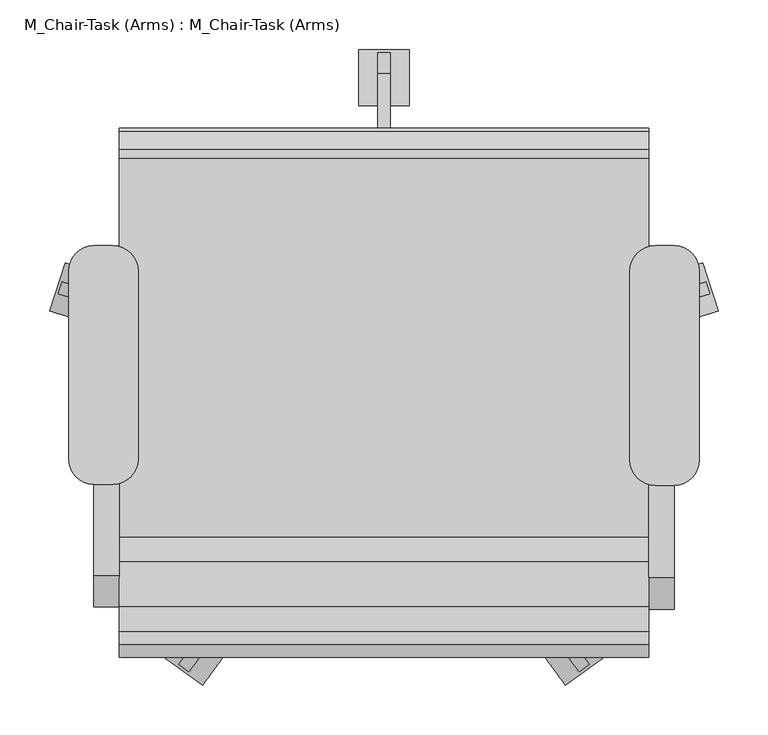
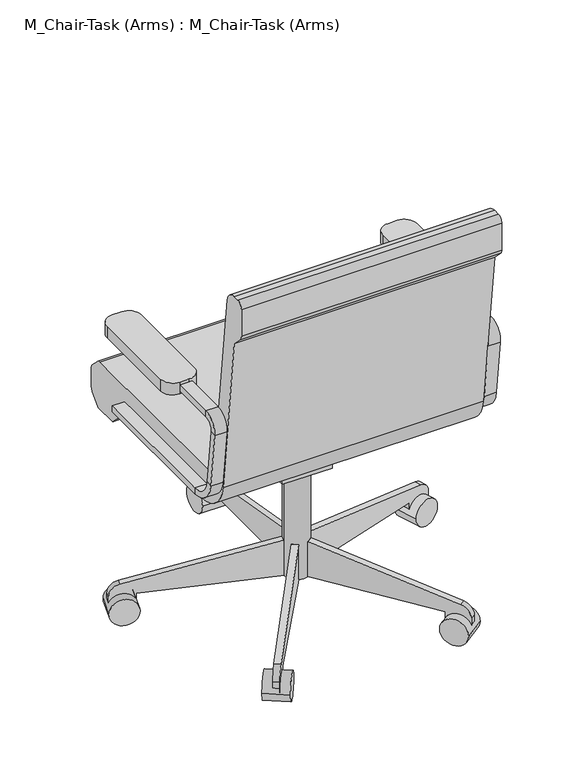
"""IFC4 building model written with IfcOpenShell, lengths in millimetres: furniture geometry, M_Chair-Task (Arms) : M_Chair-Task (Arms)."""

from ifc_helpers import new_model, si_unit, point, frame, frame_2d, origin, place, context, project, spatial, polyline, circle_curve, trimmed, segment, composite_curve, outline, extrude, source, transform, mapped, element, save
from ifc_brep_helpers import plane_surface, cylinder_surface, revolved_surface, advanced_brep


def m_chair_task_arms_m_chair_task_arms_bb362225(model_context):
    return source(origin(), model_context, "Body", "SolidModel", [
        extrude(outline(composite_curve([segment(polyline([(-126.2050455, 457.2), (255.0102301, 457.2)]), True, "CONTINUOUS"), segment(trimmed(circle_curve(frame_2d((255.0102301, 444.5)), 12.7), [point((255.0102301, 457.2))], [point((263.9604301, 453.510212))], False, "CARTESIAN"), True, "CONTINUOUS"), segment(polyline([(263.9604301, 453.510212), (281.8961016, 435.6939999)]), True, "CONTINUOUS"), segment(trimmed(circle_curve(frame_2d((272.9459016, 426.6837879)), 12.7), [point((281.8961016, 435.6939999))], [point((285.6459016, 426.6837879))], False, "CARTESIAN"), True, "CONTINUOUS"), segment(polyline([(285.6459016, 426.6837879), (285.6459016, 391.6405184)]), True, "CONTINUOUS"), segment(trimmed(circle_curve(frame_2d((260.2459016, 391.6405184)), 25.4), [point((285.6459016, 391.6405184))], [point((278.2663256, 373.7401184))], False, "CARTESIAN"), True, "CONTINUOUS"), segment(polyline([(278.2663256, 373.7401184), (260.2470284, 355.6), (209.4470284, 355.6), (181.0744602, 383.7835944), (-107.1089978, 383.7835944)]), True, "CONTINUOUS"), segment(trimmed(circle_curve(frame_2d((-107.1089978, 459.9835944)), 76.2), [point((-107.1089978, 383.7835944))], [point((-182.7870738, 451.0802913))], False, "CARTESIAN"), True, "CONTINUOUS"), segment(polyline([(-182.7870738, 451.0802913), (-222.3540984, 787.4), (-244.0343545, 809.0802561)]), True, "CONTINUOUS"), segment(trimmed(circle_curve(frame_2d((-235.0540984, 818.0605122)), 12.7), [point((-244.0343545, 809.0802561))], [point((-247.7540984, 818.0605122))], False, "CARTESIAN"), True, "CONTINUOUS"), segment(polyline([(-247.7540984, 818.0605122), (-247.7540984, 876.3)]), True, "CONTINUOUS"), segment(trimmed(circle_curve(frame_2d((-235.0540984, 876.3)), 12.7), [point((-247.7540984, 876.3))], [point((-235.0540984, 889.0))], False, "CARTESIAN"), True, "CONTINUOUS"), segment(polyline([(-235.0540984, 889.0), (-222.1789239, 889.0)]), True, "CONTINUOUS"), segment(trimmed(circle_curve(frame_2d((-222.1789239, 863.6)), 25.4), [point((-222.1789239, 889.0))], [point((-196.9528985, 866.5677677))], False, "CARTESIAN"), True, "CONTINUOUS"), segment(polyline([(-196.9528985, 866.5677677), (-151.4310708, 479.6322323)]), True, "CONTINUOUS"), segment(trimmed(circle_curve(frame_2d((-126.2050455, 482.6)), 25.4), [point((-151.4310708, 479.6322323))], [point((-126.2050455, 457.2))], True, "CARTESIAN"), True, "CONTINUOUS")], self_intersect=False)), frame((-125.7091803, 0.0, 0.0), z_axis=(1.0, 0.0, 0.0), x_axis=(0.0, 1.0, 0.0)), (0.0, 0.0, 1.0), 533.4),
        extrude(outline(polyline([(69.7459016, 383.7835944), (69.7459016, 371.0835944), (18.9459016, 283.0954134), (-19.1540984, 283.0954134), (-19.1540984, 383.7835944), (69.7459016, 383.7835944)])), frame((90.1908197, 0.0, 0.0), z_axis=(1.0, 0.0, 0.0), x_axis=(0.0, 1.0, 0.0)), (0.0, 0.0, 1.0), 101.6),
        extrude(outline(composite_curve([segment(polyline([(311.0459016, 53.5835944), (18.9459016, 53.5835944), (18.9459016, 129.7835944), (44.3459016, 129.7835944), (340.8565654, 77.5007643)]), True, "CONTINUOUS"), segment(trimmed(circle_curve(frame_2d((336.4459016, 52.4866474)), 25.4), [point((340.8565654, 77.5007643))], [point((361.8459016, 52.4866474))], False, "CARTESIAN"), True, "CONTINUOUS"), segment(polyline([(361.8459016, 52.4866474), (361.8459016, 28.1835944), (311.0459016, 28.1835944), (311.0459016, 53.5835944)]), True, "CONTINUOUS")], self_intersect=False)), frame((134.6408197, 0.0, 0.0), z_axis=(1.0, 0.0, 0.0), x_axis=(0.0, 1.0, 0.0)), (0.0, 0.0, 1.0), 12.7),
        extrude(outline(composite_curve([segment(trimmed(circle_curve(frame_2d((336.4459016, 28.1835944)), 28.2002727), [point((308.2456289, 28.1835944))], [point((364.6461744, 28.1835944))], False, "CARTESIAN"), True, "CONTINUOUS"), segment(trimmed(circle_curve(frame_2d((336.4459016, 28.1835944)), 28.2002727), [point((364.6461744, 28.1835944))], [point((308.2456289, 28.1835944))], False, "CARTESIAN"), True, "CONTINUOUS")], self_intersect=False)), frame((115.5908197, 0.0, 0.0), z_axis=(1.0, 0.0, 0.0), x_axis=(0.0, 1.0, 0.0)), (0.0, 0.0, 1.0), 50.8),
        extrude(outline(composite_curve([segment(polyline([(25.4, 0.0), (25.4, 292.1000001), (101.6, 292.1000001), (101.6, 266.7), (49.3171699, -29.8106636)]), True, "CONTINUOUS"), segment(trimmed(circle_curve(frame_2d((24.303053, -25.4)), 25.4), [point((49.3171699, -29.8106636))], [point((24.303053, -50.8))], False, "CARTESIAN"), True, "CONTINUOUS"), segment(polyline([(24.303053, -50.8), (0.0, -50.8), (0.0, 0.0), (25.4, 0.0)]), True, "CONTINUOUS")], self_intersect=False)), frame((-138.7750467, 103.1705568, 28.1835944), z_axis=(0.3090169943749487, 0.9510565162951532, 0.0), x_axis=(0.0, 0.0, 1.0)), (0.0, 0.0, 1.0), 12.7),
        extrude(outline(composite_curve([segment(trimmed(circle_curve(frame_2d((0.0, -28.2002727)), 28.2002727), [point((0.0, -56.4005454))], [point((0.0, 0.0))], False, "CARTESIAN"), True, "CONTINUOUS"), segment(trimmed(circle_curve(frame_2d((0.0, -28.2002727)), 28.2002727), [point((0.0, 0.0))], [point((0.0, -56.4005454))], False, "CARTESIAN"), True, "CONTINUOUS")], self_intersect=False)), frame((-195.638709, 101.6163254, 28.1835944), z_axis=(0.3090169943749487, 0.9510565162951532, 0.0), x_axis=(0.0, 0.0, -1.0)), (0.0, 0.0, 1.0), 50.8),
        extrude(outline(composite_curve([segment(polyline([(25.4, 0.0), (25.4, 292.1), (101.6, 292.1), (101.6, 266.7), (49.3171699, -29.8106637)]), True, "CONTINUOUS"), segment(trimmed(circle_curve(frame_2d((24.303053, -25.3999999)), 25.4), [point((49.3171699, -29.8106637))], [point((24.303053, -50.8))], False, "CARTESIAN"), True, "CONTINUOUS"), segment(polyline([(24.303053, -50.8), (0.0, -50.8), (0.0, 0.0), (25.4, 0.0)]), True, "CONTINUOUS")], self_intersect=False)), frame((-25.5639946, -221.1003988, 28.1835944), z_axis=(-0.8090169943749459, 0.5877852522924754, 0.0), x_axis=(0.0, 0.0, 1.0)), (0.0, 0.0, 1.0), 12.7),
        extrude(outline(composite_curve([segment(trimmed(circle_curve(frame_2d((0.0, -28.2002727)), 28.2002727), [point((0.0, -56.4005455))], [point((0.0, 0.0))], False, "CARTESIAN"), True, "CONTINUOUS"), segment(trimmed(circle_curve(frame_2d((0.0, -28.2002727)), 28.2002727), [point((0.0, 0.0))], [point((0.0, -56.4005455))], False, "CARTESIAN"), True, "CONTINUOUS")], self_intersect=False)), frame((-41.6576707, -275.6612394, 28.1835944), z_axis=(-0.8090169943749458, 0.5877852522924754, 0.0), x_axis=(0.0, 0.0, -1.0)), (0.0, 0.0, 1.0), 50.8),
        extrude(outline(composite_curve([segment(polyline([(-25.4, 0.0), (0.0, 0.0), (0.0, -50.8), (-24.303053, -50.8)]), True, "CONTINUOUS"), segment(trimmed(circle_curve(frame_2d((-24.303053, -25.3999999)), 25.4), [point((-24.303053, -50.8))], [point((-49.3171699, -29.8106636))], False, "CARTESIAN"), True, "CONTINUOUS"), segment(polyline([(-49.3171699, -29.8106636), (-101.6, 266.7), (-101.6, 292.1), (-25.4, 292.1), (-25.4, 0.0)]), True, "CONTINUOUS")], self_intersect=False)), frame((307.545634, -221.1003988, 28.1835944), z_axis=(0.8090169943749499, 0.5877852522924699, 0.0), x_axis=(0.0, 0.0, -1.0)), (0.0, 0.0, 1.0), 12.7),
        extrude(outline(composite_curve([segment(trimmed(circle_curve(frame_2d((0.0, -28.2002727)), 28.2002727), [point((0.0, -56.4005455))], [point((0.0, 0.0))], False, "CARTESIAN"), True, "CONTINUOUS"), segment(trimmed(circle_curve(frame_2d((0.0, -28.2002727)), 28.2002727), [point((0.0, 0.0))], [point((0.0, -56.4005455))], False, "CARTESIAN"), True, "CONTINUOUS")], self_intersect=False)), frame((323.63931, -275.6612394, 28.1835944), z_axis=(0.8090169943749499, 0.5877852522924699, 0.0), x_axis=(0.0, 0.0, 1.0)), (0.0, 0.0, 1.0), 50.8),
        extrude(outline(composite_curve([segment(polyline([(-25.4, 0.0), (0.0, 0.0), (0.0, -50.8), (-24.303053, -50.8)]), True, "CONTINUOUS"), segment(trimmed(circle_curve(frame_2d((-24.303053, -25.4)), 25.4), [point((-24.303053, -50.8))], [point((-49.3171699, -29.8106637))], False, "CARTESIAN"), True, "CONTINUOUS"), segment(polyline([(-49.3171699, -29.8106637), (-101.6, 266.7), (-101.6, 292.1), (-25.4, 292.1), (-25.4, 0.0)]), True, "CONTINUOUS")], self_intersect=False)), frame((420.756686, 103.1705568, 28.1835944), z_axis=(-0.3090169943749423, 0.9510565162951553, 0.0), x_axis=(0.0, 0.0, -1.0)), (0.0, 0.0, 1.0), 12.7),
        extrude(outline(composite_curve([segment(trimmed(circle_curve(frame_2d((0.0, -28.2002727)), 28.2002727), [point((0.0, -56.4005455))], [point((0.0, 0.0))], False, "CARTESIAN"), True, "CONTINUOUS"), segment(trimmed(circle_curve(frame_2d((0.0, -28.2002727)), 28.2002727), [point((0.0, 0.0))], [point((0.0, -56.4005455))], False, "CARTESIAN"), True, "CONTINUOUS")], self_intersect=False)), frame((477.6203484, 101.6163254, 28.1835944), z_axis=(-0.3090169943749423, 0.9510565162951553, 0.0), x_axis=(0.0, 0.0, 1.0)), (0.0, 0.0, 1.0), 50.8),
        extrude(outline(composite_curve([segment(trimmed(circle_curve(frame_2d((140.9908197, 18.9459016)), 25.4), [point((115.5908197, 18.9459016))], [point((166.3908197, 18.9459016))], False, "CARTESIAN"), True, "CONTINUOUS"), segment(trimmed(circle_curve(frame_2d((140.9908197, 18.9459016)), 25.4), [point((166.3908197, 18.9459016))], [point((115.5908197, 18.9459016))], False, "CARTESIAN"), True, "CONTINUOUS")], self_intersect=False)), frame((0.0, 0.0, 53.5835944), z_axis=(0.0, 0.0, 1.0), x_axis=(1.0, 0.0, 0.0)), (0.0, 0.0, 1.0), 330.5914056),
        advanced_brep(
        [(433.0908197, 167.0319091, 425.45), (433.0908197, 167.0319091, 412.75), (407.6908197, 167.0319091, 412.75), (407.6908197, 167.0319091, 425.45), (433.0908197, -128.329278, 425.45), (433.0908197, -128.329278, 412.75), (407.6908197, -128.329278, 412.75), (407.6908197, -128.329278, 425.45), (433.0908197, -185.0878351, 463.2225227), (433.0908197, -172.4748224, 464.7064065), (407.6908197, -185.0878351, 463.2225227), (407.6908197, -172.4748224, 464.7064065), (433.0908197, -186.2710303, 581.9741742), (433.0908197, -198.884043, 580.4902904), (407.6908197, -198.884043, 580.4902904), (407.6908197, -186.2710303, 581.9741742), (433.0908197, -167.3515113, 615.95), (433.0908197, -167.3515113, 603.25), (407.6908197, -167.3515113, 615.95), (407.6908197, -167.3515113, 603.25), (433.0908197, 18.9459016, 603.25), (407.6908197, 18.9459016, 603.25), (407.6908197, 18.9459016, 615.95), (433.0908197, 18.9459016, 615.95)],
        [
            (0, 1),
            (1, 2),
            (2, 3),
            (3, 0),
            (0, 4),
            (4, 5),
            (5, 1),
            (5, 6),
            (6, 2),
            (6, 7),
            (7, 3),
            (7, 4),
            (8, 5, circle_curve(frame((433.0908197, -128.329278, 469.9), z_axis=(1.0, 0.0, 0.0), x_axis=(0.0, 0.0, -1.0)), 57.15)),
            (4, 9, circle_curve(frame((433.0908197, -128.329278, 469.9), z_axis=(-1.0, 0.0, 0.0), x_axis=(0.0, 0.0, -1.0)), 44.45)),
            (9, 8),
            (10, 6, circle_curve(frame((407.6908197, -128.329278, 469.9), z_axis=(1.0, 0.0, 0.0), x_axis=(0.0, 0.0, -1.0)), 57.15)),
            (8, 10),
            (11, 7, circle_curve(frame((407.6908197, -128.329278, 469.9), z_axis=(1.0, 0.0, 0.0), x_axis=(0.0, 0.0, -1.0)), 44.45)),
            (10, 11),
            (11, 9),
            (9, 12),
            (12, 13),
            (13, 8),
            (13, 14),
            (14, 10),
            (14, 15),
            (15, 11),
            (15, 12),
            (16, 13, circle_curve(frame((433.0908197, -167.3515113, 584.2), z_axis=(1.0, 0.0, 0.0), x_axis=(0.0, -0.9931506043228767, -0.1168412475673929)), 31.75)),
            (12, 17, circle_curve(frame((433.0908197, -167.3515113, 584.2), z_axis=(-1.0, 0.0, 0.0), x_axis=(0.0, -0.9931506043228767, -0.1168412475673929)), 19.05)),
            (17, 16),
            (18, 14, circle_curve(frame((407.6908197, -167.3515113, 584.2), z_axis=(1.0, 0.0, 0.0), x_axis=(0.0, -0.9931506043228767, -0.1168412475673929)), 31.75)),
            (16, 18),
            (19, 15, circle_curve(frame((407.6908197, -167.3515113, 584.2), z_axis=(1.0, 0.0, 0.0), x_axis=(0.0, -0.9931506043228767, -0.1168412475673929)), 19.05)),
            (18, 19),
            (19, 17),
            (20, 21),
            (21, 22),
            (22, 23),
            (23, 20),
            (17, 20),
            (23, 16),
            (22, 18),
            (21, 19),
        ],
        [
            plane_surface(frame((406.191788, 167.0319091, 419.1), z_axis=(0.0, 1.0, 0.0), x_axis=(0.0, 0.0, -1.0))),
            plane_surface(frame((433.0908197, 167.0319091, 425.45), z_axis=(1.0, 0.0, 0.0), x_axis=(0.0, -1.0, 0.0))),
            plane_surface(frame((433.0908197, 167.0319091, 412.75), z_axis=(0.0, 0.0, -1.0), x_axis=(0.0, -1.0, 0.0))),
            plane_surface(frame((407.6908197, 167.0319091, 412.75), z_axis=(-1.0, 0.0, 0.0), x_axis=(0.0, -1.0, 0.0))),
            plane_surface(frame((407.6908197, 167.0319091, 425.45), z_axis=(0.0, 0.0, 1.0), x_axis=(0.0, -1.0, 0.0))),
            plane_surface(frame((433.0908197, -128.329278, 469.9), z_axis=(1.0, 0.0, 0.0), x_axis=(0.0, 0.0, -1.0))),
            cylinder_surface(frame((420.3908197, -128.329278, 469.9), z_axis=(-1.0, 0.0, 0.0), x_axis=(0.0, 0.0, -1.0)), 57.15),
            plane_surface(frame((407.6908197, -128.329278, 469.9), z_axis=(-1.0, 0.0, 0.0), x_axis=(0.0, 0.0, -1.0))),
            revolved_surface(polyline([(407.6908197, -128.329278, 425.45), (433.0908197, -128.329278, 425.45)]), (420.3908197, -128.329278, 469.9), (-1.0, 0.0, 0.0)),
            plane_surface(frame((433.0908197, -172.4748224, 464.7064065), z_axis=(1.0, 0.0, 0.0), x_axis=(0.0, -0.11684124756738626, 0.9931506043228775))),
            plane_surface(frame((433.0908197, -185.0878351, 463.2225227), z_axis=(0.0, -0.9931506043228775, -0.11684124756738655), x_axis=(0.0, -0.11684124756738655, 0.9931506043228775))),
            plane_surface(frame((407.6908197, -185.0878351, 463.2225227), z_axis=(-1.0, 0.0, 0.0), x_axis=(0.0, -0.11684124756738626, 0.9931506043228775))),
            plane_surface(frame((407.6908197, -172.4748224, 464.7064065), z_axis=(0.0, 0.9931506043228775, 0.11684124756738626), x_axis=(0.0, -0.11684124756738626, 0.9931506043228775))),
            plane_surface(frame((433.0908197, -167.3515113, 584.2), z_axis=(1.0, 0.0, 0.0), x_axis=(0.0, -0.9931506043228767, -0.1168412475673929))),
            cylinder_surface(frame((420.3908197, -167.3515113, 584.2), z_axis=(-1.0, 0.0, 0.0), x_axis=(0.0, -0.9931506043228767, -0.1168412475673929)), 31.75),
            plane_surface(frame((407.6908197, -167.3515113, 584.2), z_axis=(-1.0, 0.0, 0.0), x_axis=(0.0, -0.9931506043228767, -0.1168412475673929))),
            revolved_surface(polyline([(407.6908197, -186.2710303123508, 581.9741742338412), (433.0908197, -186.2710303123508, 581.9741742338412)]), (420.3908197, -167.3515113, 584.2), (-1.0, 0.0, 0.0)),
            plane_surface(frame((406.191788, 18.9459016, 609.6), z_axis=(0.0, 1.0, 0.0), x_axis=(0.0, 0.0, 1.0))),
            plane_surface(frame((433.0908197, -167.3515113, 603.25), z_axis=(1.0, 0.0, 0.0), x_axis=(0.0, 1.0, 0.0))),
            plane_surface(frame((433.0908197, -167.3515113, 615.95), z_axis=(0.0, 0.0, 1.0), x_axis=(0.0, 1.0, 0.0))),
            plane_surface(frame((407.6908197, -167.3515113, 615.95), z_axis=(-1.0, 0.0, 0.0), x_axis=(0.0, 1.0, 0.0))),
            plane_surface(frame((407.6908197, -167.3515113, 603.25), z_axis=(0.0, 0.0, -1.0), x_axis=(0.0, 1.0, 0.0))),
        ],
        [
            (0, [[1, 2, 3, 4]]),
            (1, [[-1, 5, 6, 7]]),
            (2, [[-2, -7, 8, 9]]),
            (3, [[-3, -9, 10, 11]]),
            (4, [[-4, -11, 12, -5]]),
            (5, [[13, -6, 14, 15]]),
            (6, [[16, -8, -13, 17]]),
            (7, [[18, -10, -16, 19]]),
            (8, [[-14, -12, -18, 20]]),
            (9, [[-15, 21, 22, 23]]),
            (10, [[-17, -23, 24, 25]]),
            (11, [[-19, -25, 26, 27]]),
            (12, [[-20, -27, 28, -21]]),
            (13, [[29, -22, 30, 31]]),
            (14, [[32, -24, -29, 33]]),
            (15, [[34, -26, -32, 35]]),
            (16, [[-30, -28, -34, 36]]),
            (17, [[37, 38, 39, 40]]),
            (18, [[-31, 41, -40, 42]]),
            (19, [[-33, -42, -39, 43]]),
            (20, [[-35, -43, -38, 44]]),
            (21, [[-36, -44, -37, -41]]),
        ],
    ),
        advanced_brep(
        [(-151.1091803, 167.0319091, 412.75), (-151.1091803, 167.0319091, 425.45), (-125.7091803, 167.0319091, 425.45), (-125.7091803, 167.0319091, 412.75), (-151.1091803, -126.2388651, 412.75), (-151.1091803, -126.2388651, 425.45), (-125.7091803, -126.2388651, 425.45), (-125.7091803, -126.2388651, 412.75), (-151.1091803, -170.3844094, 464.7064065), (-151.1091803, -182.9974221, 463.2225227), (-125.7091803, -170.3844094, 464.7064065), (-125.7091803, -182.9974221, 463.2225227), (-151.1091803, -196.7936301, 580.4902904), (-151.1091803, -184.1806174, 581.9741742), (-125.7091803, -184.1806174, 581.9741742), (-125.7091803, -196.7936301, 580.4902904), (-151.1091803, -165.2610984, 603.25), (-151.1091803, -165.2610984, 615.95), (-125.7091803, -165.2610984, 603.25), (-125.7091803, -165.2610984, 615.95), (-151.1091803, 18.9459016, 615.95), (-125.7091803, 18.9459016, 615.95), (-125.7091803, 18.9459016, 603.25), (-151.1091803, 18.9459016, 603.25)],
        [
            (0, 1),
            (1, 2),
            (2, 3),
            (3, 0),
            (0, 4),
            (4, 5),
            (5, 1),
            (5, 6),
            (6, 2),
            (6, 7),
            (7, 3),
            (7, 4),
            (8, 5, circle_curve(frame((-151.1091803, -126.2388651, 469.9), z_axis=(1.0, 0.0, 0.0), x_axis=(0.0, 0.0, -1.0)), 44.45)),
            (4, 9, circle_curve(frame((-151.1091803, -126.2388651, 469.9), z_axis=(-1.0, 0.0, 0.0), x_axis=(0.0, 0.0, -1.0)), 57.15)),
            (9, 8),
            (10, 6, circle_curve(frame((-125.7091803, -126.2388651, 469.9), z_axis=(1.0, 0.0, 0.0), x_axis=(0.0, 0.0, -1.0)), 44.45)),
            (8, 10),
            (11, 7, circle_curve(frame((-125.7091803, -126.2388651, 469.9), z_axis=(1.0, 0.0, 0.0), x_axis=(0.0, 0.0, -1.0)), 57.15)),
            (10, 11),
            (11, 9),
            (9, 12),
            (12, 13),
            (13, 8),
            (13, 14),
            (14, 10),
            (14, 15),
            (15, 11),
            (15, 12),
            (16, 13, circle_curve(frame((-151.1091803, -165.2610984, 584.2), z_axis=(1.0, 0.0, 0.0), x_axis=(0.0, -0.9931506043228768, -0.11684124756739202)), 19.05)),
            (12, 17, circle_curve(frame((-151.1091803, -165.2610984, 584.2), z_axis=(-1.0, 0.0, 0.0), x_axis=(0.0, -0.9931506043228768, -0.11684124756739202)), 31.75)),
            (17, 16),
            (18, 14, circle_curve(frame((-125.7091803, -165.2610984, 584.2), z_axis=(1.0, 0.0, 0.0), x_axis=(0.0, -0.9931506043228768, -0.11684124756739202)), 19.05)),
            (16, 18),
            (19, 15, circle_curve(frame((-125.7091803, -165.2610984, 584.2), z_axis=(1.0, 0.0, 0.0), x_axis=(0.0, -0.9931506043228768, -0.11684124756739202)), 31.75)),
            (18, 19),
            (19, 17),
            (20, 21),
            (21, 22),
            (22, 23),
            (23, 20),
            (17, 20),
            (23, 16),
            (22, 18),
            (21, 19),
        ],
        [
            plane_surface(frame((-152.608212, 167.0319091, 419.1), z_axis=(0.0, 1.0, 0.0), x_axis=(0.0, 0.0, -1.0))),
            plane_surface(frame((-151.1091803, 167.0319091, 412.75), z_axis=(-1.0, 0.0, 0.0), x_axis=(0.0, -1.0, 0.0))),
            plane_surface(frame((-151.1091803, 167.0319091, 425.45), z_axis=(0.0, 0.0, 1.0), x_axis=(0.0, -1.0, 0.0))),
            plane_surface(frame((-125.7091803, 167.0319091, 425.45), z_axis=(1.0, 0.0, 0.0), x_axis=(0.0, -1.0, 0.0))),
            plane_surface(frame((-125.7091803, 167.0319091, 412.75), z_axis=(0.0, 0.0, -1.0), x_axis=(0.0, -1.0, 0.0))),
            plane_surface(frame((-151.1091803, -126.2388651, 469.9), z_axis=(-1.0, 0.0, 0.0), x_axis=(0.0, 0.0, -1.0))),
            revolved_surface(polyline([(-151.1091803, -126.2388651, 425.45), (-125.7091803, -126.2388651, 425.45)]), (-138.4091803, -126.2388651, 469.9), (-1.0, 0.0, 0.0)),
            plane_surface(frame((-125.7091803, -126.2388651, 469.9), z_axis=(1.0, 0.0, 0.0), x_axis=(0.0, 0.0, -1.0))),
            cylinder_surface(frame((-138.4091803, -126.2388651, 469.9), z_axis=(-1.0, 0.0, 0.0), x_axis=(0.0, 0.0, -1.0)), 57.15),
            plane_surface(frame((-151.1091803, -182.9974221, 463.2225227), z_axis=(-1.0, 0.0, 0.0), x_axis=(0.0, -0.1168412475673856, 0.9931506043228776))),
            plane_surface(frame((-151.1091803, -170.3844094, 464.7064065), z_axis=(0.0, 0.9931506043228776, 0.1168412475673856), x_axis=(0.0, -0.1168412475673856, 0.9931506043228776))),
            plane_surface(frame((-125.7091803, -170.3844094, 464.7064065), z_axis=(1.0, 0.0, 0.0), x_axis=(0.0, -0.1168412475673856, 0.9931506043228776))),
            plane_surface(frame((-125.7091803, -182.9974221, 463.2225227), z_axis=(0.0, -0.9931506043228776, -0.1168412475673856), x_axis=(0.0, -0.1168412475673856, 0.9931506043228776))),
            plane_surface(frame((-151.1091803, -165.2610984, 584.2), z_axis=(-1.0, 0.0, 0.0), x_axis=(0.0, -0.9931506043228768, -0.11684124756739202))),
            revolved_surface(polyline([(-151.1091803, -184.1806174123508, 581.9741742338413), (-125.7091803, -184.1806174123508, 581.9741742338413)]), (-138.4091803, -165.2610984, 584.2), (-1.0, 0.0, 0.0)),
            plane_surface(frame((-125.7091803, -165.2610984, 584.2), z_axis=(1.0, 0.0, 0.0), x_axis=(0.0, -0.9931506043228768, -0.11684124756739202))),
            cylinder_surface(frame((-138.4091803, -165.2610984, 584.2), z_axis=(-1.0, 0.0, 0.0), x_axis=(0.0, -0.9931506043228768, -0.11684124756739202)), 31.75),
            plane_surface(frame((-152.608212, 18.9459016, 609.6), z_axis=(0.0, 1.0, 0.0), x_axis=(0.0, 0.0, 1.0))),
            plane_surface(frame((-151.1091803, -165.2610984, 615.95), z_axis=(-1.0, 0.0, 0.0), x_axis=(0.0, 1.0, 0.0))),
            plane_surface(frame((-151.1091803, -165.2610984, 603.25), z_axis=(0.0, 0.0, -1.0), x_axis=(0.0, 1.0, 0.0))),
            plane_surface(frame((-125.7091803, -165.2610984, 603.25), z_axis=(1.0, 0.0, 0.0), x_axis=(0.0, 1.0, 0.0))),
            plane_surface(frame((-125.7091803, -165.2610984, 615.95), z_axis=(0.0, 0.0, 1.0), x_axis=(0.0, 1.0, 0.0))),
        ],
        [
            (0, [[1, 2, 3, 4]]),
            (1, [[-1, 5, 6, 7]]),
            (2, [[-2, -7, 8, 9]]),
            (3, [[-3, -9, 10, 11]]),
            (4, [[-4, -11, 12, -5]]),
            (5, [[13, -6, 14, 15]]),
            (6, [[16, -8, -13, 17]]),
            (7, [[18, -10, -16, 19]]),
            (8, [[-14, -12, -18, 20]]),
            (9, [[-15, 21, 22, 23]]),
            (10, [[-17, -23, 24, 25]]),
            (11, [[-19, -25, 26, 27]]),
            (12, [[-20, -27, 28, -21]]),
            (13, [[29, -22, 30, 31]]),
            (14, [[32, -24, -29, 33]]),
            (15, [[34, -26, -32, 35]]),
            (16, [[-30, -28, -34, 36]]),
            (17, [[37, 38, 39, 40]]),
            (18, [[-31, 41, -40, 42]]),
            (19, [[-33, -42, -39, 43]]),
            (20, [[-35, -43, -38, 44]]),
            (21, [[-36, -44, -37, -41]]),
        ],
    ),
        extrude(outline(composite_curve([segment(polyline([(433.0908197, -74.2028048), (414.0408197, -74.2028048)]), True, "CONTINUOUS"), segment(trimmed(circle_curve(frame_2d((414.0408197, -48.8028048)), 25.4), [point((414.0408197, -74.2028048))], [point((388.6408197, -48.8028048))], False, "CARTESIAN"), True, "CONTINUOUS"), segment(polyline([(388.6408197, -48.8028048), (388.6408197, 141.6319091)]), True, "CONTINUOUS"), segment(trimmed(circle_curve(frame_2d((414.0408197, 141.6319091)), 25.4), [point((388.6408197, 141.6319091))], [point((414.0408197, 167.0319091))], False, "CARTESIAN"), True, "CONTINUOUS"), segment(polyline([(414.0408197, 167.0319091), (433.0908197, 167.0319091)]), True, "CONTINUOUS"), segment(trimmed(circle_curve(frame_2d((433.0908197, 141.6319091)), 25.4), [point((433.0908197, 167.0319091))], [point((458.4908197, 141.6319091))], False, "CARTESIAN"), True, "CONTINUOUS"), segment(polyline([(458.4908197, 141.6319091), (458.4908197, -48.8028048)]), True, "CONTINUOUS"), segment(trimmed(circle_curve(frame_2d((433.0908197, -48.8028048)), 25.4), [point((458.4908197, -48.8028048))], [point((433.0908197, -74.2028048))], False, "CARTESIAN"), True, "CONTINUOUS")], self_intersect=False)), frame((0.0, 0.0, 596.9), z_axis=(0.0, 0.0, 1.0), x_axis=(1.0, 0.0, 0.0)), (0.0, 0.0, 1.0), 25.4),
        extrude(outline(composite_curve([segment(polyline([(-132.0591803, -73.1575984), (-151.1091803, -73.1575984)]), True, "CONTINUOUS"), segment(trimmed(circle_curve(frame_2d((-151.1091803, -47.7575984)), 25.4), [point((-151.1091803, -73.1575984))], [point((-176.5091803, -47.7575984))], False, "CARTESIAN"), True, "CONTINUOUS"), segment(polyline([(-176.5091803, -47.7575984), (-176.5091803, 141.6319091)]), True, "CONTINUOUS"), segment(trimmed(circle_curve(frame_2d((-151.1091803, 141.6319091)), 25.4), [point((-176.5091803, 141.6319091))], [point((-151.1091803, 167.0319091))], False, "CARTESIAN"), True, "CONTINUOUS"), segment(polyline([(-151.1091803, 167.0319091), (-132.0591803, 167.0319091)]), True, "CONTINUOUS"), segment(trimmed(circle_curve(frame_2d((-132.0591803, 141.6319091)), 25.4), [point((-132.0591803, 167.0319091))], [point((-106.6591803, 141.6319091))], False, "CARTESIAN"), True, "CONTINUOUS"), segment(polyline([(-106.6591803, 141.6319091), (-106.6591803, -47.7575984)]), True, "CONTINUOUS"), segment(trimmed(circle_curve(frame_2d((-132.0591803, -47.7575984)), 25.4), [point((-106.6591803, -47.7575984))], [point((-132.0591803, -73.1575984))], False, "CARTESIAN"), True, "CONTINUOUS")], self_intersect=False)), frame((0.0, 0.0, 596.9), z_axis=(0.0, 0.0, 1.0), x_axis=(1.0, 0.0, 0.0)), (0.0, 0.0, 1.0), 25.4),
    ])


if __name__ == "__main__":
    model = new_model("IFC4")
    model_context = context("Model", 3, world=origin())
    ifc_project = project(units=[si_unit("LENGTHUNIT", "METRE", prefix="MILLI")], contexts=[model_context])
    site = spatial("IfcSite", under=ifc_project)
    building = spatial("IfcBuilding", under=site)
    placement = place(None, origin())
    m_chair_task_arms_m_chair_task_arms_shape = m_chair_task_arms_m_chair_task_arms_bb362225(model_context)
    element("IfcFurniture", 1, ObjectType="M_Chair-Task (Arms) : M_Chair-Task (Arms)", at=placement, inside=building, context=model_context, shape_type="MappedRepresentation", body=[
        mapped(m_chair_task_arms_m_chair_task_arms_shape, transform((0.0, 0.0, 0.0), x_axis=(1.0, 0.0, 0.0), y_axis=(0.0, 1.0, 0.0), z_axis=(0.0, 0.0, 1.0))),
    ])
    save(model, "model.ifc")
